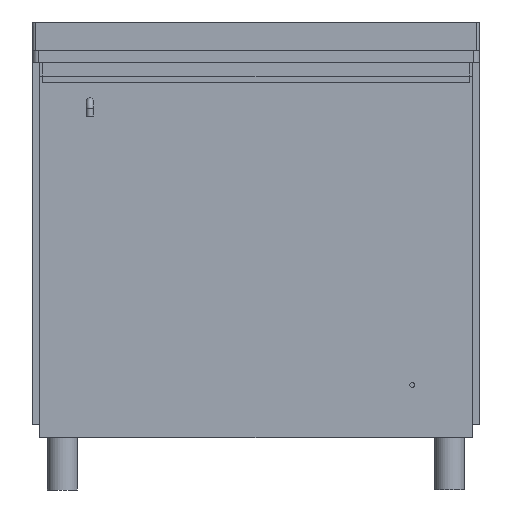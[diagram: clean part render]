
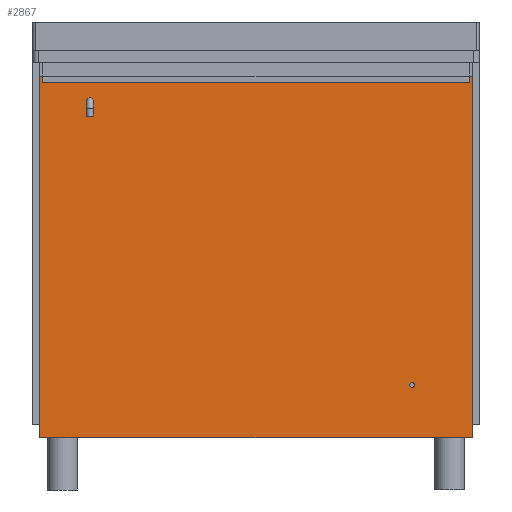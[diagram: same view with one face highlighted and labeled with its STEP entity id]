
A CAD part, left-side view. The second image highlights one B-rep face of the part: STEP entity #2867.
In plain terms, the highlighted planar face has unit normal (-1, 0, 0).
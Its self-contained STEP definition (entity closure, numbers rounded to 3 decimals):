
#1072=PLANE('',#17416);
#2867=ADVANCED_FACE('',(#6038,#6039,#6040),#1072,.F.);
#4384=LINE('',#27320,#5537);
#4387=LINE('',#27330,#5540);
#4388=LINE('',#27332,#5541);
#4389=LINE('',#27334,#5542);
#5537=VECTOR('',#21467,1.);
#5540=VECTOR('',#21476,1.);
#5541=VECTOR('',#21477,1.);
#5542=VECTOR('',#21478,1.);
#6038=FACE_BOUND('',#7036,.T.);
#6039=FACE_BOUND('',#7037,.T.);
#6040=FACE_BOUND('',#7038,.T.);
#7036=EDGE_LOOP('',(#10644));
#7037=EDGE_LOOP('',(#10645));
#7038=EDGE_LOOP('',(#10646,#10647,#10648,#10649));
#10644=ORIENTED_EDGE('',*,*,#14752,.T.);
#10645=ORIENTED_EDGE('',*,*,#14753,.F.);
#10646=ORIENTED_EDGE('',*,*,#14754,.T.);
#10647=ORIENTED_EDGE('',*,*,#14755,.F.);
#10648=ORIENTED_EDGE('',*,*,#14756,.F.);
#10649=ORIENTED_EDGE('',*,*,#14749,.T.);
#12752=VERTEX_POINT('',#27319);
#12753=VERTEX_POINT('',#27321);
#12755=VERTEX_POINT('',#27327);
#12756=VERTEX_POINT('',#27329);
#12757=VERTEX_POINT('',#27331);
#12758=VERTEX_POINT('',#27333);
#14749=EDGE_CURVE('',#12753,#12752,#4384,.T.);
#14752=EDGE_CURVE('',#12755,#12755,#15865,.T.);
#14753=EDGE_CURVE('',#12756,#12756,#15866,.T.);
#14754=EDGE_CURVE('',#12752,#12757,#4387,.T.);
#14755=EDGE_CURVE('',#12758,#12757,#4388,.T.);
#14756=EDGE_CURVE('',#12753,#12758,#4389,.T.);
#15865=CIRCLE('',#17414,7.);
#15866=CIRCLE('',#17415,5.);
#17414=AXIS2_PLACEMENT_3D('',#27326,#21472,#21473);
#17415=AXIS2_PLACEMENT_3D('',#27328,#21474,#21475);
#17416=AXIS2_PLACEMENT_3D('',#27335,#21479,#21480);
#21467=DIRECTION('',(0.,0.,-1.));
#21472=DIRECTION('',(1.,0.,0.));
#21473=DIRECTION('',(0.,-1.,0.));
#21474=DIRECTION('',(-1.,0.,0.));
#21475=DIRECTION('',(0.,0.,1.));
#21476=DIRECTION('',(0.,-1.,0.));
#21477=DIRECTION('',(0.,0.,-1.));
#21478=DIRECTION('',(0.,-1.,0.));
#21479=DIRECTION('',(1.,0.,0.));
#21480=DIRECTION('',(0.,0.,1.));
#27319=CARTESIAN_POINT('',(-531.,-15.,-718.374));
#27320=CARTESIAN_POINT('',(-531.,-15.,7.626));
#27321=CARTESIAN_POINT('',(-531.,-15.,7.626));
#27326=CARTESIAN_POINT('',(-531.,-115.,-42.374));
#27327=CARTESIAN_POINT('',(-531.,-122.,-42.374));
#27328=CARTESIAN_POINT('',(-531.,-763.,-612.374));
#27329=CARTESIAN_POINT('',(-531.,-763.,-607.374));
#27330=CARTESIAN_POINT('',(-531.,-15.,-718.374));
#27331=CARTESIAN_POINT('',(-531.,-883.,-718.374));
#27332=CARTESIAN_POINT('',(-531.,-883.,7.626));
#27333=CARTESIAN_POINT('',(-531.,-883.,7.626));
#27334=CARTESIAN_POINT('',(-531.,-15.,7.626));
#27335=CARTESIAN_POINT('',(-531.,-15.,7.626));
